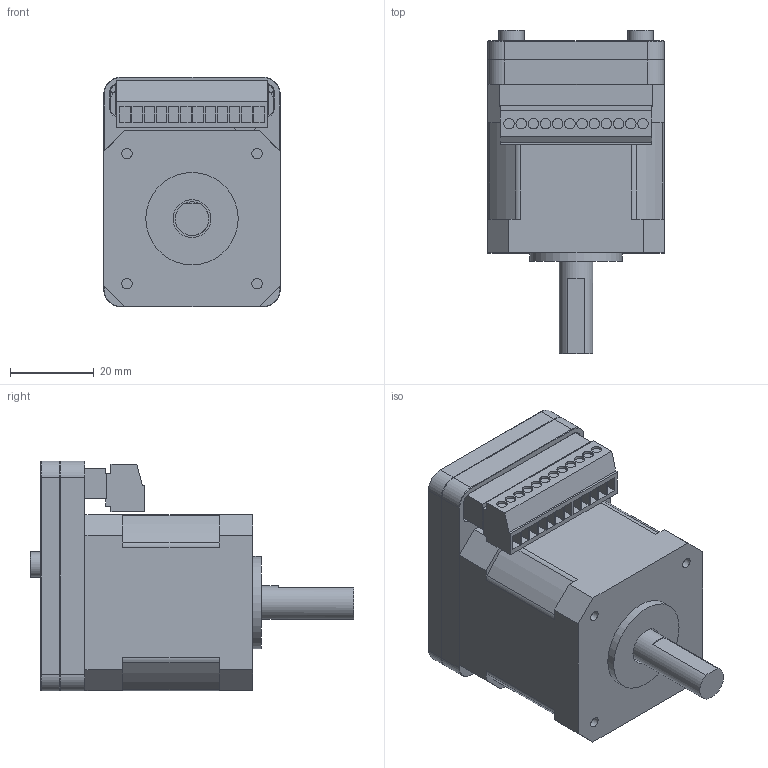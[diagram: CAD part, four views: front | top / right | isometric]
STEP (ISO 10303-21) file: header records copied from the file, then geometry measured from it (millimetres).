
FILE_DESCRIPTION(/* description */ ('Unknown'),/* implementation_level */ '2;1');
FILE_NAME(/* name */ '42_L40_C8',/* time_stamp */ '2023-07-12T09:28:40+08:00',/* author */ ('Unknown'),/* organization */ ('Unknown'),/* preprocessor_version */ 'ST-DEVELOPER v16.7',/* originating_system */ 'DEX',/* authorisation */ $);
FILE_SCHEMA (('AUTOMOTIVE_DESIGN {1 0 10303 214 3 1 1}'));
Length unit declared in the file: millimetre
Products named in the file (1): 42_L40_C8
Bounding box: 42 x 77 x 54.7 mm (x, y, z)
Volume: 83505.4 mm3; surface area: 22822.4 mm2
Topology: 1 solids, 1 shells, 358 faces, 901 edges, 584 vertices
Faces by surface type: plane 222, cylinder 100, cone 36
Full cylindrical faces by diameter (mm): 2.459 x4, 2.5 x16, 3 x3, 3.2 x6, 6 x2, 8 x1, 9 x1, 12 x1, 22 x1
Entity records: 12660 total; most frequent: DIRECTION 1780, CARTESIAN_POINT 1721, ORIENTED_EDGE 1634, EDGE_CURVE 817, AXIS2_PLACEMENT_3D 604, LINE 572, VECTOR 572, VERTEX_POINT 545
